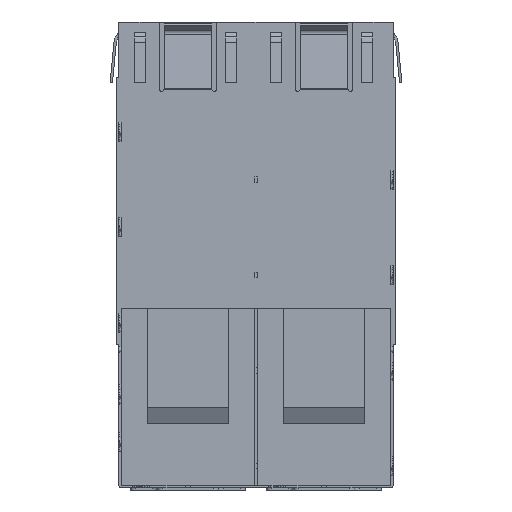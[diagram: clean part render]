
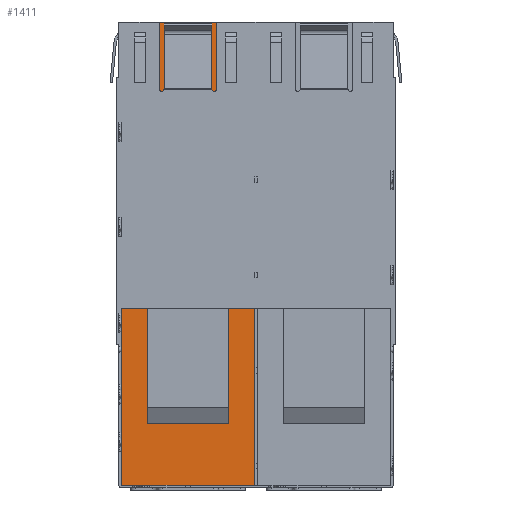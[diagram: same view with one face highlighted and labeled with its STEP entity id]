
A CAD part, front view. The second image highlights one B-rep face of the part: STEP entity #1411.
In plain terms, the highlighted planar face has unit normal (0, -1, 0).
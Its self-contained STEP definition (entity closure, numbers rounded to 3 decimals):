
#265=FACE_BOUND('',#4656,.T.);
#266=FACE_BOUND('',#4657,.T.);
#319=PLANE('',#26645);
#1411=ADVANCED_FACE('',(#265,#266),#319,.F.);
#4656=EDGE_LOOP('',(#13121,#13122,#13123,#13124));
#4657=EDGE_LOOP('',(#13125,#13126,#13127,#13128));
#6820=LINE('',#37348,#9861);
#6853=LINE('',#37460,#9894);
#6854=LINE('',#37463,#9895);
#6855=LINE('',#37465,#9896);
#6856=LINE('',#37467,#9897);
#6857=LINE('',#37468,#9898);
#6858=LINE('',#37470,#9899);
#6859=LINE('',#37472,#9900);
#9861=VECTOR('',#29563,1.);
#9894=VECTOR('',#29646,1.);
#9895=VECTOR('',#29647,1.);
#9896=VECTOR('',#29648,1.);
#9897=VECTOR('',#29649,1.);
#9898=VECTOR('',#29650,1.);
#9899=VECTOR('',#29651,1.);
#9900=VECTOR('',#29652,1.);
#13121=ORIENTED_EDGE('',*,*,#23019,.F.);
#13122=ORIENTED_EDGE('',*,*,#23020,.T.);
#13123=ORIENTED_EDGE('',*,*,#23021,.F.);
#13124=ORIENTED_EDGE('',*,*,#23022,.F.);
#13125=ORIENTED_EDGE('',*,*,#22962,.F.);
#13126=ORIENTED_EDGE('',*,*,#23023,.F.);
#13127=ORIENTED_EDGE('',*,*,#23024,.T.);
#13128=ORIENTED_EDGE('',*,*,#23025,.F.);
#20505=VERTEX_POINT('',#37347);
#20506=VERTEX_POINT('',#37349);
#20560=VERTEX_POINT('',#37461);
#20561=VERTEX_POINT('',#37462);
#20562=VERTEX_POINT('',#37464);
#20563=VERTEX_POINT('',#37466);
#20564=VERTEX_POINT('',#37469);
#20565=VERTEX_POINT('',#37471);
#22962=EDGE_CURVE('',#20505,#20506,#6820,.T.);
#23019=EDGE_CURVE('',#20560,#20561,#6853,.T.);
#23020=EDGE_CURVE('',#20560,#20562,#6854,.T.);
#23021=EDGE_CURVE('',#20563,#20562,#6855,.T.);
#23022=EDGE_CURVE('',#20561,#20563,#6856,.T.);
#23023=EDGE_CURVE('',#20564,#20505,#6857,.T.);
#23024=EDGE_CURVE('',#20564,#20565,#6858,.T.);
#23025=EDGE_CURVE('',#20506,#20565,#6859,.T.);
#26645=AXIS2_PLACEMENT_3D('',#37473,#29653,#29654);
#29563=DIRECTION('',(-1.,0.,0.));
#29646=DIRECTION('',(1.,0.,0.));
#29647=DIRECTION('',(0.,0.,1.));
#29648=DIRECTION('',(-1.,0.,0.));
#29649=DIRECTION('',(0.,0.,1.));
#29650=DIRECTION('',(0.,0.,-1.));
#29651=DIRECTION('',(-1.,0.,0.));
#29652=DIRECTION('',(0.,0.,1.));
#29653=DIRECTION('',(0.,1.,0.));
#29654=DIRECTION('',(0.,0.,-1.));
#37347=CARTESIAN_POINT('',(-0.125,9.2,-48.5));
#37348=CARTESIAN_POINT('',(14.075,9.2,-48.5));
#37349=CARTESIAN_POINT('',(-14.075,9.2,-48.5));
#37460=CARTESIAN_POINT('',(14.075,9.2,-42.052));
#37461=CARTESIAN_POINT('',(-11.375,9.2,-42.052));
#37462=CARTESIAN_POINT('',(-2.875,9.2,-42.052));
#37463=CARTESIAN_POINT('',(-11.375,9.2,-78.384));
#37464=CARTESIAN_POINT('',(-11.375,9.2,-17.348));
#37465=CARTESIAN_POINT('',(14.075,9.2,-17.348));
#37466=CARTESIAN_POINT('',(-2.875,9.2,-17.348));
#37467=CARTESIAN_POINT('',(-2.875,9.2,-78.384));
#37468=CARTESIAN_POINT('',(-0.125,9.2,8.953));
#37469=CARTESIAN_POINT('',(-0.125,9.2,0.));
#37470=CARTESIAN_POINT('',(14.075,9.2,0.));
#37471=CARTESIAN_POINT('',(-14.075,9.2,0.));
#37472=CARTESIAN_POINT('',(-14.075,9.2,-78.384));
#37473=CARTESIAN_POINT('',(14.075,9.2,-78.384));
